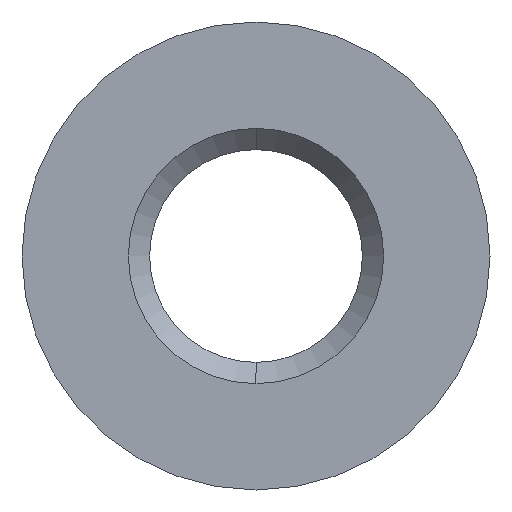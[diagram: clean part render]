
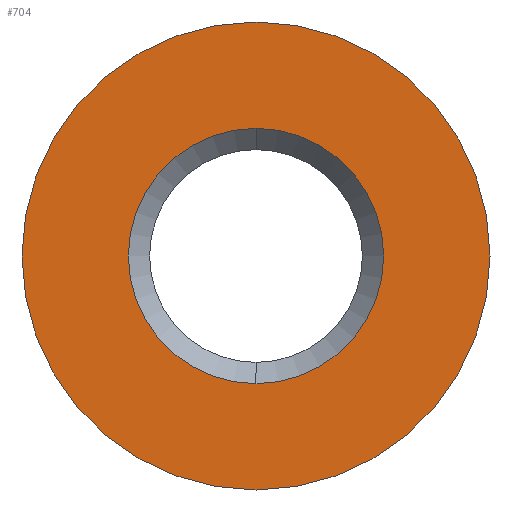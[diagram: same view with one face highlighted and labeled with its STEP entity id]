
A CAD part, left-side view. The second image highlights one B-rep face of the part: STEP entity #704.
In plain terms, the highlighted planar face has unit normal (-1, 0, 0).
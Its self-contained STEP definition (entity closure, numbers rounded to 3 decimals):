
#13 = EDGE_CURVE ( 'NONE', #1039, #981, #1048, .T. ) ;
#31 = EDGE_CURVE ( 'NONE', #663, #821, #871, .T. ) ;
#37 = CIRCLE ( 'NONE', #1027, 2.75 ) ;
#52 = DIRECTION ( 'NONE',  ( -1., 0., 0. ) ) ;
#63 = CARTESIAN_POINT ( 'NONE',  ( -5.88, 0., 0. ) ) ;
#101 = FACE_OUTER_BOUND ( 'NONE', #104, .T. ) ;
#104 = EDGE_LOOP ( 'NONE', ( #229, #509 ) ) ;
#108 = CARTESIAN_POINT ( 'NONE',  ( -5.88, 0., 0. ) ) ;
#145 = DIRECTION ( 'NONE',  ( 1., 0., 0. ) ) ;
#183 = FACE_BOUND ( 'NONE', #626, .T. ) ;
#204 = EDGE_CURVE ( 'NONE', #981, #1039, #784, .T. ) ;
#229 = ORIENTED_EDGE ( 'NONE', *, *, #31, .T. ) ;
#292 = DIRECTION ( 'NONE',  ( 1., 0., 0. ) ) ;
#295 = DIRECTION ( 'NONE',  ( 0., 0., 1. ) ) ;
#310 = CARTESIAN_POINT ( 'NONE',  ( -5.88, 0., 2.75 ) ) ;
#421 = CARTESIAN_POINT ( 'NONE',  ( -5.88, 0., 1.5 ) ) ;
#423 = AXIS2_PLACEMENT_3D ( 'NONE', #63, #145, #1058 ) ;
#431 = PLANE ( 'NONE',  #961 ) ;
#509 = ORIENTED_EDGE ( 'NONE', *, *, #779, .T. ) ;
#579 = AXIS2_PLACEMENT_3D ( 'NONE', #719, #723, #966 ) ;
#626 = EDGE_LOOP ( 'NONE', ( #755, #742 ) ) ;
#663 = VERTEX_POINT ( 'NONE', #1026 ) ;
#687 = AXIS2_PLACEMENT_3D ( 'NONE', #108, #292, #1032 ) ;
#704 = ADVANCED_FACE ( 'NONE', ( #183, #101 ), #431, .T. ) ;
#719 = CARTESIAN_POINT ( 'NONE',  ( -5.88, 0., 0. ) ) ;
#723 = DIRECTION ( 'NONE',  ( -1., 0., 0. ) ) ;
#742 = ORIENTED_EDGE ( 'NONE', *, *, #204, .T. ) ;
#755 = ORIENTED_EDGE ( 'NONE', *, *, #13, .T. ) ;
#779 = EDGE_CURVE ( 'NONE', #821, #663, #37, .T. ) ;
#782 = CARTESIAN_POINT ( 'NONE',  ( -5.88, 0., 0. ) ) ;
#784 = CIRCLE ( 'NONE', #687, 1.5 ) ;
#814 = CARTESIAN_POINT ( 'NONE',  ( -5.88, 0., -1.5 ) ) ;
#821 = VERTEX_POINT ( 'NONE', #310 ) ;
#871 = CIRCLE ( 'NONE', #579, 2.75 ) ;
#881 = DIRECTION ( 'NONE',  ( 0., 0., 1. ) ) ;
#961 = AXIS2_PLACEMENT_3D ( 'NONE', #782, #52, #881 ) ;
#966 = DIRECTION ( 'NONE',  ( 0., 0., 1. ) ) ;
#981 = VERTEX_POINT ( 'NONE', #814 ) ;
#1026 = CARTESIAN_POINT ( 'NONE',  ( -5.88, 0., -2.75 ) ) ;
#1027 = AXIS2_PLACEMENT_3D ( 'NONE', #1047, #1035, #295 ) ;
#1032 = DIRECTION ( 'NONE',  ( 0., 0., 1. ) ) ;
#1035 = DIRECTION ( 'NONE',  ( -1., 0., 0. ) ) ;
#1039 = VERTEX_POINT ( 'NONE', #421 ) ;
#1047 = CARTESIAN_POINT ( 'NONE',  ( -5.88, 0., 0. ) ) ;
#1048 = CIRCLE ( 'NONE', #423, 1.5 ) ;
#1058 = DIRECTION ( 'NONE',  ( 0., 0., 1. ) ) ;
